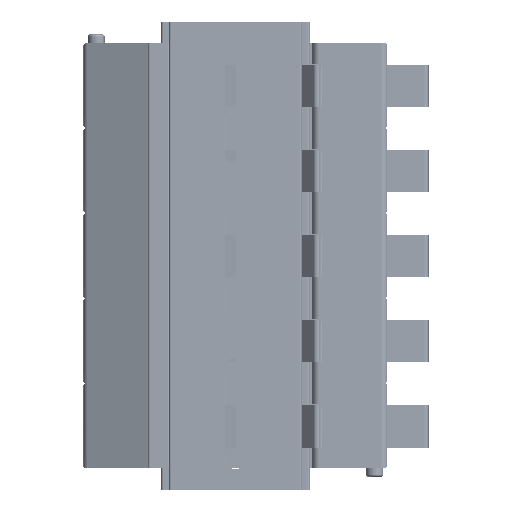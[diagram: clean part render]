
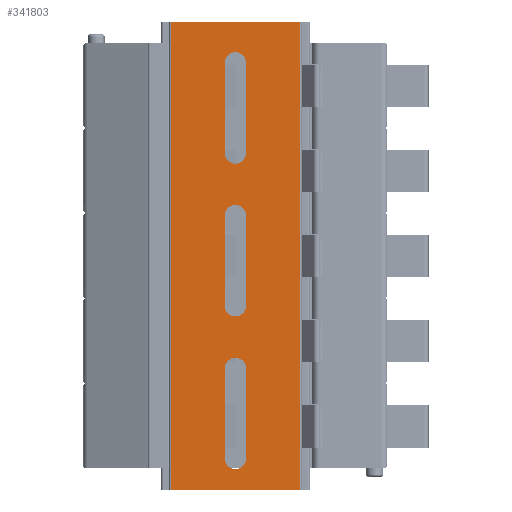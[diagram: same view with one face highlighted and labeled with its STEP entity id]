
A CAD part, front view. The second image highlights one B-rep face of the part: STEP entity #341803.
In plain terms, the highlighted planar face has unit normal (0, -1, 0).
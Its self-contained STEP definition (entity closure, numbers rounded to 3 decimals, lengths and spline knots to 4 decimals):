
#2334=DIRECTION('',(0.,0.,-1.));
#2335=VECTOR('',#2334,4.3307);
#2336=CARTESIAN_POINT('',(0.0945,0.,0.7874));
#2337=LINE('',#2336,#2335);
#114560=DIRECTION('',(-1.,0.,0.));
#114561=VECTOR('',#114560,1.189);
#114562=CARTESIAN_POINT('',(1.2835,0.,
-3.5433));
#114563=LINE('',#114562,#114561);
#114564=DIRECTION('',(1.,0.,0.));
#114565=VECTOR('',#114564,1.189);
#114566=CARTESIAN_POINT('',(0.0945,0.,0.7874));
#114567=LINE('',#114566,#114565);
#114568=CARTESIAN_POINT('',(0.689,0.,-3.252));
#114569=DIRECTION('',(0.,-1.,0.));
#114570=DIRECTION('',(-1.,0.,0.));
#114571=AXIS2_PLACEMENT_3D('',#114568,#114569,#114570);
#114573=CARTESIAN_POINT('',(0.689,0.,-2.4173));
#114574=DIRECTION('',(0.,-1.,0.));
#114575=DIRECTION('',(1.,0.,0.));
#114576=AXIS2_PLACEMENT_3D('',#114573,#114574,#114575);
#114578=CARTESIAN_POINT('',(0.689,0.,-1.8386));
#114579=DIRECTION('',(0.,-1.,0.));
#114580=DIRECTION('',(-1.,0.,0.));
#114581=AXIS2_PLACEMENT_3D('',#114578,#114579,#114580);
#114583=CARTESIAN_POINT('',(0.689,0.,-1.0039));
#114584=DIRECTION('',(0.,-1.,0.));
#114585=DIRECTION('',(1.,0.,0.));
#114586=AXIS2_PLACEMENT_3D('',#114583,#114584,#114585);
#114588=CARTESIAN_POINT('',(0.689,0.,-0.4252));
#114589=DIRECTION('',(0.,-1.,0.));
#114590=DIRECTION('',(-1.,0.,0.));
#114591=AXIS2_PLACEMENT_3D('',#114588,#114589,#114590);
#114593=CARTESIAN_POINT('',(0.689,0.,0.4094));
#114594=DIRECTION('',(0.,-1.,0.));
#114595=DIRECTION('',(1.,0.,0.));
#114596=AXIS2_PLACEMENT_3D('',#114593,#114594,#114595);
#114598=DIRECTION('',(0.,0.,1.));
#114599=VECTOR('',#114598,4.3307);
#114600=CARTESIAN_POINT('',(1.2835,0.,
-3.5433));
#114601=LINE('',#114600,#114599);
#114638=DIRECTION('',(0.,0.,-1.));
#114639=VECTOR('',#114638,0.8346);
#114640=CARTESIAN_POINT('',(0.7874,0.,-2.4173));
#114641=LINE('',#114640,#114639);
#114654=DIRECTION('',(0.,0.,1.));
#114655=VECTOR('',#114654,0.8346);
#114656=CARTESIAN_POINT('',(0.5906,0.,-3.252));
#114657=LINE('',#114656,#114655);
#114670=DIRECTION('',(0.,0.,1.));
#114671=VECTOR('',#114670,0.8346);
#114672=CARTESIAN_POINT('',(0.5906,0.,-1.8386));
#114673=LINE('',#114672,#114671);
#114686=DIRECTION('',(0.,0.,-1.));
#114687=VECTOR('',#114686,0.8346);
#114688=CARTESIAN_POINT('',(0.7874,0.,-1.0039));
#114689=LINE('',#114688,#114687);
#114702=DIRECTION('',(0.,0.,1.));
#114703=VECTOR('',#114702,0.8346);
#114704=CARTESIAN_POINT('',(0.5906,0.,-0.4252));
#114705=LINE('',#114704,#114703);
#114718=DIRECTION('',(0.,0.,-1.));
#114719=VECTOR('',#114718,0.8346);
#114720=CARTESIAN_POINT('',(0.7874,0.,0.4094));
#114721=LINE('',#114720,#114719);
#132200=CARTESIAN_POINT('',(0.0945,0.,-3.5433));
#132201=VERTEX_POINT('',#132200);
#132202=CARTESIAN_POINT('',(1.2835,0.,
-3.5433));
#132204=VERTEX_POINT('',#132202);
#132260=CARTESIAN_POINT('',(1.2835,0.,
0.7874));
#132261=VERTEX_POINT('',#132260);
#132262=CARTESIAN_POINT('',(0.0945,0.,0.7874));
#132264=VERTEX_POINT('',#132262);
#134040=CARTESIAN_POINT('',(0.7874,0.,-3.252));
#134041=VERTEX_POINT('',#134040);
#134042=CARTESIAN_POINT('',(0.5906,0.,-3.252));
#134043=VERTEX_POINT('',#134042);
#134044=CARTESIAN_POINT('',(0.7874,0.,-2.4173));
#134045=VERTEX_POINT('',#134044);
#134046=CARTESIAN_POINT('',(0.5906,0.,-2.4173));
#134047=VERTEX_POINT('',#134046);
#134048=CARTESIAN_POINT('',(0.5906,0.,-1.8386));
#134049=CARTESIAN_POINT('',(0.7874,0.,-1.8386));
#134050=VERTEX_POINT('',#134048);
#134051=VERTEX_POINT('',#134049);
#134052=CARTESIAN_POINT('',(0.7874,0.,-1.0039));
#134053=VERTEX_POINT('',#134052);
#134054=CARTESIAN_POINT('',(0.5906,0.,-1.0039));
#134055=VERTEX_POINT('',#134054);
#134056=CARTESIAN_POINT('',(0.5906,0.,-0.4252));
#134057=CARTESIAN_POINT('',(0.7874,0.,-0.4252));
#134058=VERTEX_POINT('',#134056);
#134059=VERTEX_POINT('',#134057);
#134060=CARTESIAN_POINT('',(0.7874,0.,0.4094));
#134061=VERTEX_POINT('',#134060);
#134062=CARTESIAN_POINT('',(0.5906,0.,0.4094));
#134063=VERTEX_POINT('',#134062);
#341762=CARTESIAN_POINT('',(0.689,0.,-1.378));
#341763=DIRECTION('',(0.,1.,0.));
#341764=DIRECTION('',(1.,0.,0.));
#341765=AXIS2_PLACEMENT_3D('',#341762,#341763,#341764);
#341766=PLANE('',#341765);
#341767=ORIENTED_EDGE('',*,*,#339515,.T.);
#341768=ORIENTED_EDGE('',*,*,#170527,.F.);
#341769=ORIENTED_EDGE('',*,*,#339607,.T.);
#341771=ORIENTED_EDGE('',*,*,#341770,.F.);
#341772=EDGE_LOOP('',(#341767,#341768,#341769,#341771));
#341773=FACE_OUTER_BOUND('',#341772,.F.);
#341774=ORIENTED_EDGE('',*,*,#341752,.T.);
#341776=ORIENTED_EDGE('',*,*,#341775,.F.);
#341778=ORIENTED_EDGE('',*,*,#341777,.T.);
#341780=ORIENTED_EDGE('',*,*,#341779,.F.);
#341781=EDGE_LOOP('',(#341774,#341776,#341778,#341780));
#341782=FACE_BOUND('',#341781,.F.);
#341784=ORIENTED_EDGE('',*,*,#341783,.T.);
#341786=ORIENTED_EDGE('',*,*,#341785,.F.);
#341788=ORIENTED_EDGE('',*,*,#341787,.T.);
#341790=ORIENTED_EDGE('',*,*,#341789,.F.);
#341791=EDGE_LOOP('',(#341784,#341786,#341788,#341790));
#341792=FACE_BOUND('',#341791,.F.);
#341794=ORIENTED_EDGE('',*,*,#341793,.T.);
#341796=ORIENTED_EDGE('',*,*,#341795,.F.);
#341798=ORIENTED_EDGE('',*,*,#341797,.T.);
#341800=ORIENTED_EDGE('',*,*,#341799,.F.);
#341801=EDGE_LOOP('',(#341794,#341796,#341798,#341800));
#341802=FACE_BOUND('',#341801,.F.);
#341803=ADVANCED_FACE('',(#341773,#341782,#341792,#341802),#341766,.F.);
#114572=CIRCLE('',#114571,0.0984);
#114577=CIRCLE('',#114576,0.0984);
#114582=CIRCLE('',#114581,0.0984);
#114587=CIRCLE('',#114586,0.0984);
#114592=CIRCLE('',#114591,0.0984);
#114597=CIRCLE('',#114596,0.0984);
#170527=EDGE_CURVE('',#132264,#132201,#2337,.T.);
#339515=EDGE_CURVE('',#132204,#132201,#114563,.T.);
#339607=EDGE_CURVE('',#132264,#132261,#114567,.T.);
#341752=EDGE_CURVE('',#134043,#134041,#114572,.T.);
#341770=EDGE_CURVE('',#132204,#132261,#114601,.T.);
#341775=EDGE_CURVE('',#134045,#134041,#114641,.T.);
#341777=EDGE_CURVE('',#134045,#134047,#114577,.T.);
#341779=EDGE_CURVE('',#134043,#134047,#114657,.T.);
#341783=EDGE_CURVE('',#134050,#134051,#114582,.T.);
#341785=EDGE_CURVE('',#134053,#134051,#114689,.T.);
#341787=EDGE_CURVE('',#134053,#134055,#114587,.T.);
#341789=EDGE_CURVE('',#134050,#134055,#114673,.T.);
#341793=EDGE_CURVE('',#134058,#134059,#114592,.T.);
#341795=EDGE_CURVE('',#134061,#134059,#114721,.T.);
#341797=EDGE_CURVE('',#134061,#134063,#114597,.T.);
#341799=EDGE_CURVE('',#134058,#134063,#114705,.T.);
